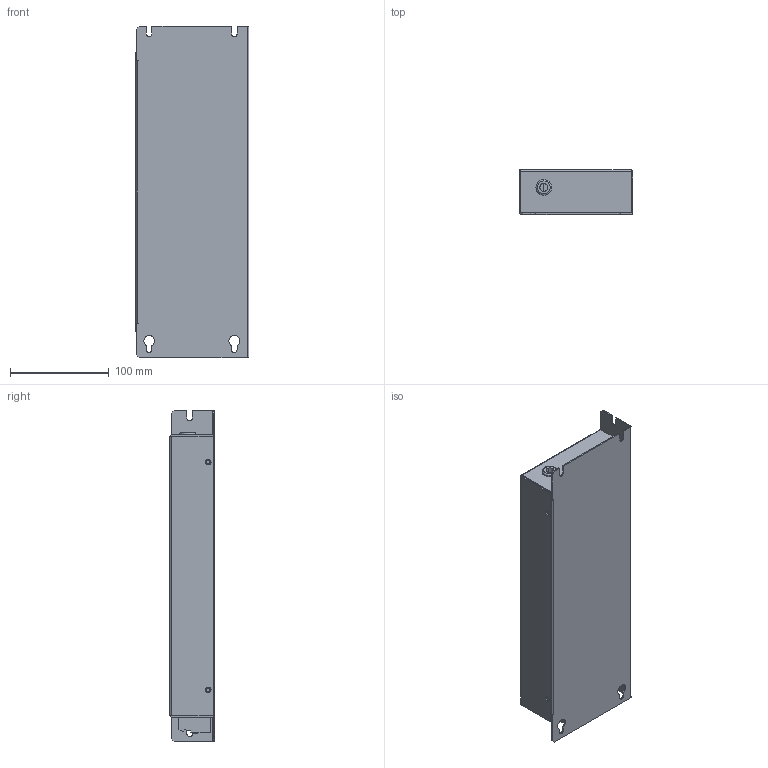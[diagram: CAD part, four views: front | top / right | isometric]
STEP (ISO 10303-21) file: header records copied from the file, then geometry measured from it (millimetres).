
FILE_DESCRIPTION (( 'STEP AP203' ), '1' );
FILE_NAME ('M400-4-1.STEP', '2016-09-07T08:40:50', ( '' ), ( '' ), 'SwSTEP 2.0', 'SolidWorks 2016', '' );
FILE_SCHEMA (( 'CONFIG_CONTROL_DESIGN' ));
Length unit declared in the file: millimetre
Products named in the file (11): VDFK-6; hex nut style 1_am_B18.2.4.1M - Hex nut, Style 1,  M5 x 0.8 --D-N; Grommet_15080; M400-4-1; M5x13 Earth post; M4 Hank; M400-4-1-box; M5 Hank 1.5mm; hex screw_am_B18.6.7M - M5 x 0.8 x 13 Indented HHMS --13S; M400-4-1-back; flat washer narrow_am_B18.22M - Plain washer, 5 mm, narrow
Assembly tree (16 placements, depth 3):
  M400-4-1
    M400-4-1-back
    M400-4-1-box
    M5 Hank 1.5mm  x4
    Grommet_15080
    M5x13 Earth post
      hex screw_am_B18.6.7M - M5 x 0.8 x 13 Indented HHMS --13S
      flat washer narrow_am_B18.22M - Plain washer, 5 mm, narrow  x2
      hex nut style 1_am_B18.2.4.1M - Hex nut, Style 1,  M5 x 0.8 --D-N
    VDFK-6  x2
    M4 Hank  x2
Bounding box: 115 x 45.3 x 335 mm (x, y, z)
Volume: 144964.2 mm3; surface area: 232530 mm2
Topology: 15 solids, 15 shells, 516 faces, 1234 edges, 766 vertices
Faces by surface type: plane 209, cylinder 167, cone 132, bspline 4, torus 4
Entity records: 13352 total; most frequent: CARTESIAN_POINT 2350, DIRECTION 2163, ORIENTED_EDGE 1934, EDGE_CURVE 967, AXIS2_PLACEMENT_3D 829, VERTEX_POINT 600, VECTOR 505, LINE 505
